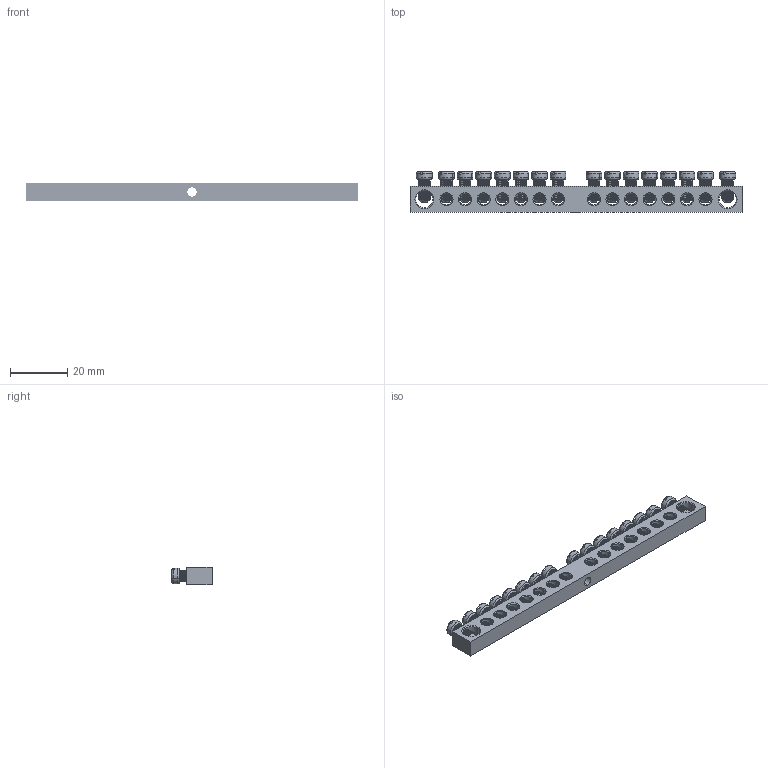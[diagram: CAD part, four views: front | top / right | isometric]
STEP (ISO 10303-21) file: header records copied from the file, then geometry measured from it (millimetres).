
FILE_DESCRIPTION (( 'STEP AP214' ), '1' );
FILE_NAME ('277980 Optikit BB-PEN-S-16-6õ9-1.STEP', '2020-02-06T13:21:29', ( '' ), ( '' ), 'SwSTEP 2.0', 'SolidWorks 2018', '' );
FILE_SCHEMA (( 'AUTOMOTIVE_DESIGN' ));
Length unit declared in the file: millimetre
Products named in the file (3): Âèíò ì4; Øèíà 6õ9 16 1; 277980 Optikit BB-PEN-S-16-6õ9-1
Assembly tree (17 placements, depth 2):
  277980 Optikit BB-PEN-S-16-6õ9-1
    Øèíà 6õ9 16 1
    Âèíò ì4  x16
Bounding box: 116 x 14.1 x 6 mm (x, y, z)
Volume: 6626.2 mm3; surface area: 8198.6 mm2
Topology: 17 solids, 17 shells, 1256 faces, 3490 edges, 2252 vertices
Faces by surface type: plane 438, cylinder 434, cone 208, torus 112, bspline 64
Entity records: 9691 total; most frequent: CARTESIAN_POINT 4084, ORIENTED_EDGE 1066, DIRECTION 1060, EDGE_CURVE 533, AXIS2_PLACEMENT_3D 423, VERTEX_POINT 332, EDGE_LOOP 273, LINE 214
